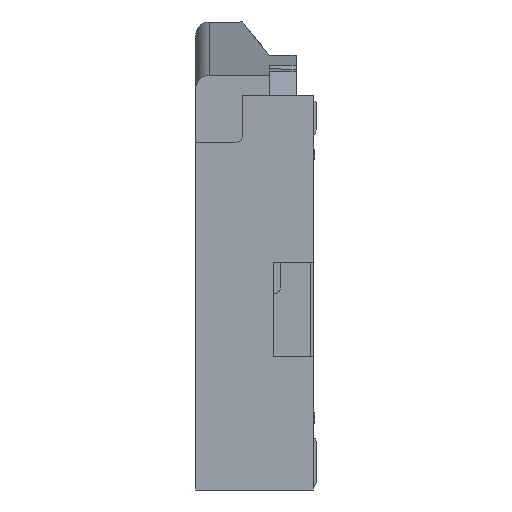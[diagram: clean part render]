
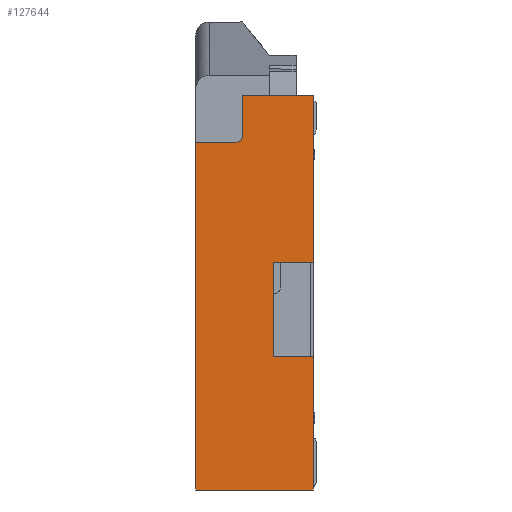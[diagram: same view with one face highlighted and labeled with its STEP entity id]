
A CAD part, left-side view. The second image highlights one B-rep face of the part: STEP entity #127644.
In plain terms, the highlighted planar face has unit normal (-1, 0, 0).
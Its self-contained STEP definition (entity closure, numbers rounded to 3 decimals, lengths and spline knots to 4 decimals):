
#30145 = ORIENTED_EDGE ( 'NONE', *, *, #144622, .T. ) ;
#30150 = ORIENTED_EDGE ( 'NONE', *, *, #144623, .F. ) ;
#30155 = ORIENTED_EDGE ( 'NONE', *, *, #144624, .F. ) ;
#30160 = ORIENTED_EDGE ( 'NONE', *, *, #143821, .T. ) ;
#30165 = ORIENTED_EDGE ( 'NONE', *, *, #143827, .F. ) ;
#30170 = ORIENTED_EDGE ( 'NONE', *, *, #144566, .T. ) ;
#30174 = ORIENTED_EDGE ( 'NONE', *, *, #144625, .F. ) ;
#30178 = ORIENTED_EDGE ( 'NONE', *, *, #144593, .F. ) ;
#30182 = ORIENTED_EDGE ( 'NONE', *, *, #144626, .F. ) ;
#30187 = ORIENTED_EDGE ( 'NONE', *, *, #144596, .T. ) ;
#30193 = ORIENTED_EDGE ( 'NONE', *, *, #144627, .T. ) ;
#39688 = AXIS2_PLACEMENT_3D ( 'NONE', #163328, #163346, #163348 ) ;
#39844 = AXIS2_PLACEMENT_3D ( 'NONE', #114989, #114992, #114994 ) ;
#44477 = FACE_OUTER_BOUND ( 'NONE', #63065, .T. ) ;
#51976 = LINE ( 'NONE', #114876, #52035 ) ;
#52035 = VECTOR ( 'NONE', #114943, 1000. ) ;
#52056 = CIRCLE ( 'NONE', #39844, 0.05 ) ;
#63065 = EDGE_LOOP ( 'NONE', ( #30145, #30150, #30155, #30160, #30165, #30170, #30174, #30178, #30182, #30187, #30193 ) ) ;
#64919 = VERTEX_POINT ( 'NONE', #136754 ) ;
#64924 = VERTEX_POINT ( 'NONE', #136753 ) ;
#64941 = VERTEX_POINT ( 'NONE', #136764 ) ;
#64947 = VERTEX_POINT ( 'NONE', #136772 ) ;
#64949 = VERTEX_POINT ( 'NONE', #136770 ) ;
#64970 = VERTEX_POINT ( 'NONE', #136783 ) ;
#64973 = VERTEX_POINT ( 'NONE', #136785 ) ;
#64978 = VERTEX_POINT ( 'NONE', #136789 ) ;
#72477 = CARTESIAN_POINT ( 'NONE',  ( -9.9, 0.55, -0.3 ) ) ;
#72479 = CARTESIAN_POINT ( 'NONE',  ( -9.9, 0.55, 0. ) ) ;
#72484 = CARTESIAN_POINT ( 'NONE',  ( -9.9, 0.6, -0.35 ) ) ;
#98290 = VERTEX_POINT ( 'NONE', #72477 ) ;
#98292 = VERTEX_POINT ( 'NONE', #72479 ) ;
#98297 = VERTEX_POINT ( 'NONE', #72484 ) ;
#114876 = CARTESIAN_POINT ( 'NONE',  ( -9.9, 0.55, 0. ) ) ;
#114943 = DIRECTION ( 'NONE',  ( 0., 0., -1. ) ) ;
#114989 = CARTESIAN_POINT ( 'NONE',  ( -9.9, 0.6, -0.3 ) ) ;
#114992 = DIRECTION ( 'NONE',  ( -1., 0., 0. ) ) ;
#114994 = DIRECTION ( 'NONE',  ( 0., 0., -1. ) ) ;
#127644 = ADVANCED_FACE ( 'NONE', ( #44477 ), #163343, .T. ) ;
#136753 = CARTESIAN_POINT ( 'NONE',  ( -9.9, 0.9, -0.35 ) ) ;
#136754 = CARTESIAN_POINT ( 'NONE',  ( -9.9, 0.32, -1.95 ) ) ;
#136764 = CARTESIAN_POINT ( 'NONE',  ( -9.9, 0.02, -1.95 ) ) ;
#136770 = CARTESIAN_POINT ( 'NONE',  ( -9.9, 0.9, -2.95 ) ) ;
#136772 = CARTESIAN_POINT ( 'NONE',  ( -9.9, 0.02, -2.95 ) ) ;
#136783 = CARTESIAN_POINT ( 'NONE',  ( -9.9, 0.32, -1.25 ) ) ;
#136785 = CARTESIAN_POINT ( 'NONE',  ( -9.9, 0.02, -1.25 ) ) ;
#136789 = CARTESIAN_POINT ( 'NONE',  ( -9.9, 0.02, 0. ) ) ;
#141409 = CARTESIAN_POINT ( 'NONE',  ( -9.9, 0.9, -0.35 ) ) ;
#141412 = DIRECTION ( 'NONE',  ( 0., 1., 0. ) ) ;
#141431 = CARTESIAN_POINT ( 'NONE',  ( -9.9, -0.5636, -2.95 ) ) ;
#141545 = DIRECTION ( 'NONE',  ( 0., 1., 0. ) ) ;
#141559 = CARTESIAN_POINT ( 'NONE',  ( -9.9, 0.02, -1.95 ) ) ;
#141562 = DIRECTION ( 'NONE',  ( 0., 1., 0. ) ) ;
#141689 = CARTESIAN_POINT ( 'NONE',  ( -9.9, 0.02, -1.25 ) ) ;
#141692 = DIRECTION ( 'NONE',  ( 0., -1., 0. ) ) ;
#141694 = CARTESIAN_POINT ( 'NONE',  ( -9.9, 0.02, -2.85 ) ) ;
#141697 = DIRECTION ( 'NONE',  ( 0., 0., -1. ) ) ;
#141699 = CARTESIAN_POINT ( 'NONE',  ( -9.9, 0.9, 0. ) ) ;
#141702 = DIRECTION ( 'NONE',  ( 0., -1., 0. ) ) ;
#141704 = CARTESIAN_POINT ( 'NONE',  ( -9.9, 0.9, 0. ) ) ;
#141707 = DIRECTION ( 'NONE',  ( 0., 0., 1. ) ) ;
#141709 = CARTESIAN_POINT ( 'NONE',  ( -9.9, 0.02, -2.85 ) ) ;
#141712 = DIRECTION ( 'NONE',  ( 0., 0., -1. ) ) ;
#141714 = CARTESIAN_POINT ( 'NONE',  ( -9.9, 0.32, -1.25 ) ) ;
#141717 = DIRECTION ( 'NONE',  ( 0., 0., 1. ) ) ;
#143821 = EDGE_CURVE ( 'NONE', #98292, #98290, #51976, .T. ) ;
#143827 = EDGE_CURVE ( 'NONE', #98297, #98290, #52056, .T. ) ;
#144566 = EDGE_CURVE ( 'NONE', #98297, #64924, #156557, .T. ) ;
#144593 = EDGE_CURVE ( 'NONE', #64947, #64949, #156707, .T. ) ;
#144596 = EDGE_CURVE ( 'NONE', #64941, #64919, #156738, .T. ) ;
#144622 = EDGE_CURVE ( 'NONE', #64970, #64973, #156879, .T. ) ;
#144623 = EDGE_CURVE ( 'NONE', #64978, #64973, #156885, .T. ) ;
#144624 = EDGE_CURVE ( 'NONE', #98292, #64978, #156890, .T. ) ;
#144625 = EDGE_CURVE ( 'NONE', #64949, #64924, #156896, .T. ) ;
#144626 = EDGE_CURVE ( 'NONE', #64941, #64947, #156902, .T. ) ;
#144627 = EDGE_CURVE ( 'NONE', #64919, #64970, #156907, .T. ) ;
#156557 = LINE ( 'NONE', #141409, #156567 ) ;
#156567 = VECTOR ( 'NONE', #141412, 1000. ) ;
#156707 = LINE ( 'NONE', #141431, #156731 ) ;
#156731 = VECTOR ( 'NONE', #141545, 1000. ) ;
#156738 = LINE ( 'NONE', #141559, #156747 ) ;
#156747 = VECTOR ( 'NONE', #141562, 1000. ) ;
#156879 = LINE ( 'NONE', #141689, #156887 ) ;
#156885 = LINE ( 'NONE', #141694, #156893 ) ;
#156887 = VECTOR ( 'NONE', #141692, 1000. ) ;
#156890 = LINE ( 'NONE', #141699, #156900 ) ;
#156893 = VECTOR ( 'NONE', #141697, 1000. ) ;
#156896 = LINE ( 'NONE', #141704, #156904 ) ;
#156900 = VECTOR ( 'NONE', #141702, 1000. ) ;
#156902 = LINE ( 'NONE', #141709, #156909 ) ;
#156904 = VECTOR ( 'NONE', #141707, 1000. ) ;
#156907 = LINE ( 'NONE', #141714, #156915 ) ;
#156909 = VECTOR ( 'NONE', #141712, 1000. ) ;
#156915 = VECTOR ( 'NONE', #141717, 1000. ) ;
#163328 = CARTESIAN_POINT ( 'NONE',  ( -9.9, 0., 0. ) ) ;
#163343 = PLANE ( 'NONE',  #39688 ) ;
#163346 = DIRECTION ( 'NONE',  ( -1., 0., 0. ) ) ;
#163348 = DIRECTION ( 'NONE',  ( 0., 0., -1. ) ) ;
